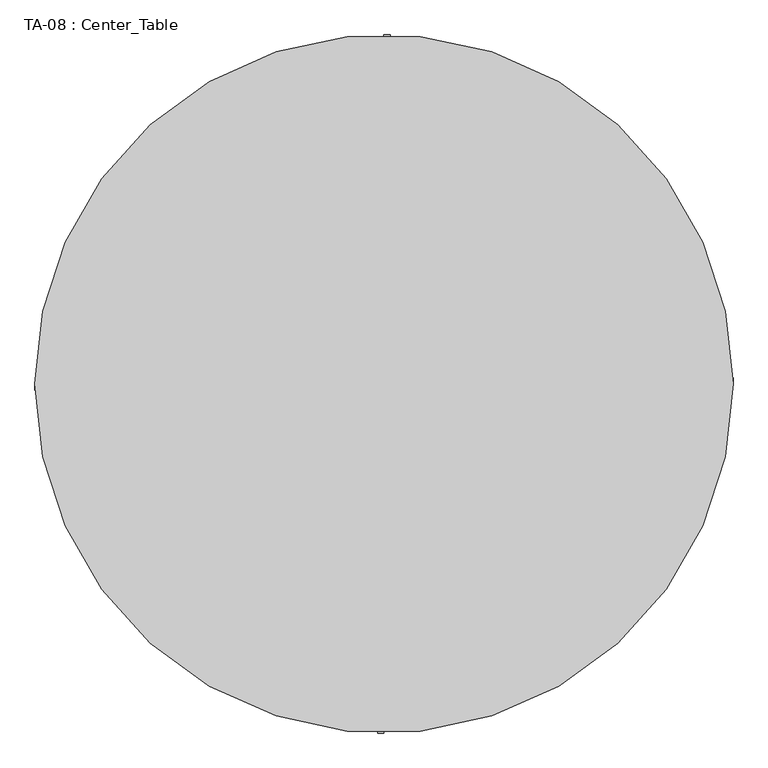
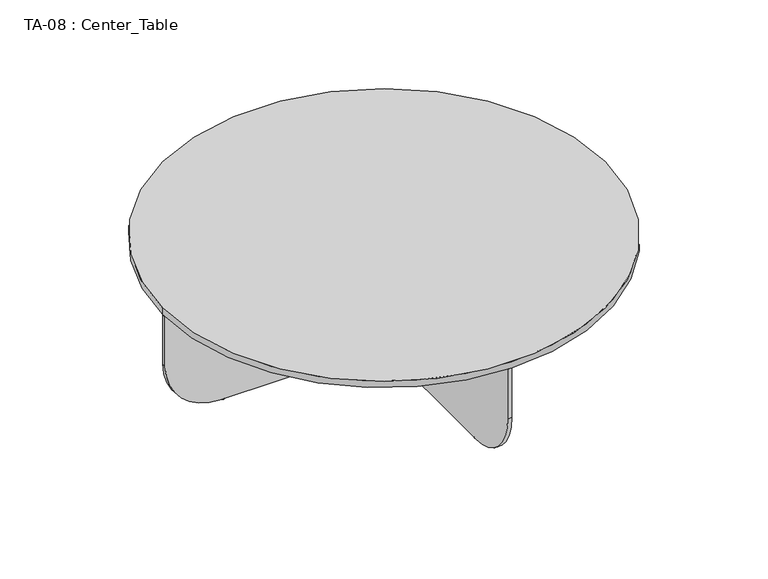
"""IFC4 building model written with IfcOpenShell, lengths in millimetres: furniture geometry, TA-08 : Center_Table."""

from ifc_helpers import new_model, si_unit, point, frame, frame_2d, origin, origin_2d, place, context, project, spatial, polyline, circle_curve, trimmed, segment, composite_curve, outline, extrude, source, transform, mapped, element, save
from ifc_brep_helpers import plane_surface, spline_surface, advanced_brep


def ta_08_center_table_7fddebb3(model_context):
    return source(origin(), model_context, "Body", "SolidModel", [
        extrude(outline(composite_curve([segment(trimmed(circle_curve(origin_2d(), 500.0), [point((-500.0, 0.0))], [point((500.0, 0.0))], False, "CARTESIAN"), True, "CONTINUOUS"), segment(trimmed(circle_curve(origin_2d(), 500.0), [point((500.0, 0.0))], [point((-500.0, 0.0))], False, "CARTESIAN"), True, "CONTINUOUS")], self_intersect=False)), frame((0.0, 0.0, 245.0), z_axis=(0.0, 0.0, 1.0), x_axis=(1.0, 0.0, 0.0)), (0.0, 0.0, 1.0), 15.0),
        advanced_brep(
        [(-1.3330078, -368.3337402, 2.4487968), (-0.8428955, -366.5057373, 2.4487968), (-1.3330078, -364.677124, 2.4487968), (-2.6708984, -363.338623, 2.4487968), (-4.4995117, -362.8491211, 2.4487968), (-6.328125, -363.338623, 2.4487968), (-7.6660156, -364.677124, 2.4487968), (-8.1561279, -366.5057373, 2.4487968), (-7.6660156, -368.3337402, 2.4487968), (-6.328125, -369.6722412, 2.4487968), (-4.4995117, -370.1623535, 2.4487968), (-2.6708984, -369.6722412, 2.4487968), (-1.7712402, -368.0804443, 0.0), (-2.9248047, -369.2333984, 0.0), (-4.4995117, -369.6557617, 0.0), (-6.0742188, -369.2333984, 0.0), (-7.2277832, -368.0804443, 0.0), (-7.6495361, -366.5057373, 0.0), (-7.2277832, -364.9304199, 0.0), (-6.0742188, -363.7774658, 0.0), (-4.4995117, -363.3557129, 0.0), (-2.9248047, -363.7774658, 0.0), (-1.7712402, -364.9304199, 0.0), (-1.3494873, -366.5057373, 0.0)],
        [
            (0, 1),
            (1, 2),
            (2, 3),
            (3, 4),
            (4, 5),
            (5, 6),
            (6, 7),
            (7, 8),
            (8, 9),
            (9, 10),
            (10, 11),
            (11, 0),
            (12, 13),
            (13, 14),
            (14, 15),
            (15, 16),
            (16, 17),
            (17, 18),
            (18, 19),
            (19, 20),
            (20, 21),
            (21, 22),
            (22, 23),
            (23, 12),
            (12, 0),
            (11, 13),
            (10, 14),
            (9, 15),
            (8, 16),
            (7, 17),
            (6, 18),
            (5, 19),
            (4, 20),
            (3, 21),
            (2, 22),
            (1, 23),
        ],
        [
            plane_surface(frame((-4.4995117, -366.5055339, 2.4487968), z_axis=(0.0, 0.0, 1.0000000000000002), x_axis=(-0.9659883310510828, 0.25858566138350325, 0.0))),
            plane_surface(frame((-4.4995117, -366.5055339, 0.0), z_axis=(0.0, 0.0, -1.0000000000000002), x_axis=(-0.9659883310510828, 0.25858566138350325, 0.0))),
            spline_surface(1, 1, [[(-2.9248047, -369.2333984, 0.0), (-2.6708984, -369.6722412, 2.4487968)], [(-1.7712402, -368.0804443, 0.0), (-1.3330078, -368.3337402, 2.4487968)]], [2, 2], [2, 2], [0.0, 1.0], [0.0, 1.0]),
            spline_surface(1, 1, [[(-4.4995117, -369.6557617, 0.0), (-4.4995117, -370.1623535, 2.4487968)], [(-2.9248047, -369.2333984, 0.0), (-2.6708984, -369.6722412, 2.4487968)]], [2, 2], [2, 2], [0.0, 1.0], [0.0, 1.0]),
            spline_surface(1, 1, [[(-6.0742188, -369.2333984, 0.0), (-6.328125, -369.6722412, 2.4487968)], [(-4.4995117, -369.6557617, 0.0), (-4.4995117, -370.1623535, 2.4487968)]], [2, 2], [2, 2], [0.0, 1.0], [0.0, 1.0]),
            spline_surface(1, 1, [[(-7.2277832, -368.0804443, 0.0), (-7.6660156, -368.3337402, 2.4487968)], [(-6.0742188, -369.2333984, 0.0), (-6.328125, -369.6722412, 2.4487968)]], [2, 2], [2, 2], [0.0, 1.0], [0.0, 1.0]),
            spline_surface(1, 1, [[(-7.6495361, -366.5057373, 0.0), (-8.1561279, -366.5057373, 2.4487968)], [(-7.2277832, -368.0804443, 0.0), (-7.6660156, -368.3337402, 2.4487968)]], [2, 2], [2, 2], [0.0, 1.0], [0.0, 1.0]),
            spline_surface(1, 1, [[(-7.2277832, -364.9304199, 0.0), (-7.6660156, -364.677124, 2.4487968)], [(-7.6495361, -366.5057373, 0.0), (-8.1561279, -366.5057373, 2.4487968)]], [2, 2], [2, 2], [0.0, 1.0], [0.0, 1.0]),
            spline_surface(1, 1, [[(-6.0742188, -363.7774658, 0.0), (-6.328125, -363.338623, 2.4487968)], [(-7.2277832, -364.9304199, 0.0), (-7.6660156, -364.677124, 2.4487968)]], [2, 2], [2, 2], [0.0, 1.0], [0.0, 1.0]),
            spline_surface(1, 1, [[(-4.4995117, -363.3557129, 0.0), (-4.4995117, -362.8491211, 2.4487968)], [(-6.0742188, -363.7774658, 0.0), (-6.328125, -363.338623, 2.4487968)]], [2, 2], [2, 2], [0.0, 1.0], [0.0, 1.0]),
            spline_surface(1, 1, [[(-2.9248047, -363.7774658, 0.0), (-2.6708984, -363.338623, 2.4487968)], [(-4.4995117, -363.3557129, 0.0), (-4.4995117, -362.8491211, 2.4487968)]], [2, 2], [2, 2], [0.0, 1.0], [0.0, 1.0]),
            spline_surface(1, 1, [[(-1.7712402, -364.9304199, 0.0), (-1.3330078, -364.677124, 2.4487968)], [(-2.9248047, -363.7774658, 0.0), (-2.6708984, -363.338623, 2.4487968)]], [2, 2], [2, 2], [0.0, 1.0], [0.0, 1.0]),
            spline_surface(1, 1, [[(-1.3494873, -366.5057373, 0.0), (-0.8428955, -366.5057373, 2.4487968)], [(-1.7712402, -364.9304199, 0.0), (-1.3330078, -364.677124, 2.4487968)]], [2, 2], [2, 2], [0.0, 1.0], [0.0, 1.0]),
            spline_surface(1, 1, [[(-1.7712402, -368.0804443, 0.0), (-1.3330078, -368.3337402, 2.4487968)], [(-1.3494873, -366.5057373, 0.0), (-0.8428955, -366.5057373, 2.4487968)]], [2, 2], [2, 2], [0.0, 1.0], [0.0, 1.0]),
        ],
        [
            (0, [[1, 2, 3, 4, 5, 6, 7, 8, 9, 10, 11, 12]]),
            (1, [[13, 14, 15, 16, 17, 18, 19, 20, 21, 22, 23, 24]]),
            (2, [[-13, 25, -12, 26]]),
            (3, [[-14, -26, -11, 27]]),
            (4, [[-15, -27, -10, 28]]),
            (5, [[-16, -28, -9, 29]]),
            (6, [[-17, -29, -8, 30]]),
            (7, [[-18, -30, -7, 31]]),
            (8, [[-19, -31, -6, 32]]),
            (9, [[-20, -32, -5, 33]]),
            (10, [[-21, -33, -4, 34]]),
            (11, [[-22, -34, -3, 35]]),
            (12, [[-23, -35, -2, 36]]),
            (13, [[-24, -36, -1, -25]]),
        ],
    ),
        advanced_brep(
        [(-1.3330078, -91.4007568, 2.4487968), (-0.8428955, -89.5727539, 2.4487968), (-1.3330078, -87.7441406, 2.4487968), (-2.6708984, -86.4056396, 2.4487968), (-4.4995117, -85.9161377, 2.4487968), (-6.328125, -86.4056396, 2.4487968), (-7.6660156, -87.7441406, 2.4487968), (-8.1561279, -89.5727539, 2.4487968), (-7.6660156, -91.4007568, 2.4487968), (-6.328125, -92.7392578, 2.4487968), (-4.4995117, -93.2293701, 2.4487968), (-2.6708984, -92.7392578, 2.4487968), (-1.7712402, -91.1474609, 0.0), (-2.9248047, -92.300415, 0.0), (-4.4995117, -92.7227783, 0.0), (-6.0742188, -92.300415, 0.0), (-7.2277832, -91.1474609, 0.0), (-7.6495361, -89.5727539, 0.0), (-7.2277832, -87.9974365, 0.0), (-6.0742187, -86.8444824, 0.0), (-4.4995117, -86.4227295, 0.0), (-2.9248047, -86.8444824, 0.0), (-1.7712402, -87.9974365, 0.0), (-1.3494873, -89.5727539, 0.0)],
        [
            (0, 1),
            (1, 2),
            (2, 3),
            (3, 4),
            (4, 5),
            (5, 6),
            (6, 7),
            (7, 8),
            (8, 9),
            (9, 10),
            (10, 11),
            (11, 0),
            (12, 13),
            (13, 14),
            (14, 15),
            (15, 16),
            (16, 17),
            (17, 18),
            (18, 19),
            (19, 20),
            (20, 21),
            (21, 22),
            (22, 23),
            (23, 12),
            (12, 0),
            (11, 13),
            (10, 14),
            (9, 15),
            (8, 16),
            (7, 17),
            (6, 18),
            (5, 19),
            (4, 20),
            (3, 21),
            (2, 22),
            (1, 23),
        ],
        [
            plane_surface(frame((-4.4995117, -89.5725505, 2.4487968), z_axis=(0.0, 0.0, 1.0000000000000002), x_axis=(-0.9659883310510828, 0.25858566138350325, 0.0))),
            plane_surface(frame((-4.4995117, -89.5725505, 0.0), z_axis=(0.0, 0.0, -1.0000000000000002), x_axis=(-0.9659883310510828, 0.25858566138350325, 0.0))),
            spline_surface(1, 1, [[(-2.9248047, -92.300415, 0.0), (-2.6708984, -92.7392578, 2.4487968)], [(-1.7712402, -91.1474609, 0.0), (-1.3330078, -91.4007568, 2.4487968)]], [2, 2], [2, 2], [0.0, 1.0], [0.0, 1.0]),
            spline_surface(1, 1, [[(-4.4995117, -92.7227783, 0.0), (-4.4995117, -93.2293701, 2.4487968)], [(-2.9248047, -92.300415, 0.0), (-2.6708984, -92.7392578, 2.4487968)]], [2, 2], [2, 2], [0.0, 1.0], [0.0, 1.0]),
            spline_surface(1, 1, [[(-6.0742188, -92.300415, 0.0), (-6.328125, -92.7392578, 2.4487968)], [(-4.4995117, -92.7227783, 0.0), (-4.4995117, -93.2293701, 2.4487968)]], [2, 2], [2, 2], [0.0, 1.0], [0.0, 1.0]),
            spline_surface(1, 1, [[(-7.2277832, -91.1474609, 0.0), (-7.6660156, -91.4007568, 2.4487968)], [(-6.0742188, -92.300415, 0.0), (-6.328125, -92.7392578, 2.4487968)]], [2, 2], [2, 2], [0.0, 1.0], [0.0, 1.0]),
            spline_surface(1, 1, [[(-7.6495361, -89.5727539, 0.0), (-8.1561279, -89.5727539, 2.4487968)], [(-7.2277832, -91.1474609, 0.0), (-7.6660156, -91.4007568, 2.4487968)]], [2, 2], [2, 2], [0.0, 1.0], [0.0, 1.0]),
            spline_surface(1, 1, [[(-7.2277832, -87.9974365, 0.0), (-7.6660156, -87.7441406, 2.4487968)], [(-7.6495361, -89.5727539, 0.0), (-8.1561279, -89.5727539, 2.4487968)]], [2, 2], [2, 2], [0.0, 1.0], [0.0, 1.0]),
            spline_surface(1, 1, [[(-6.0742187, -86.8444824, 0.0), (-6.328125, -86.4056396, 2.4487968)], [(-7.2277832, -87.9974365, 0.0), (-7.6660156, -87.7441406, 2.4487968)]], [2, 2], [2, 2], [0.0, 1.0], [0.0, 1.0]),
            spline_surface(1, 1, [[(-4.4995117, -86.4227295, 0.0), (-4.4995117, -85.9161377, 2.4487968)], [(-6.0742187, -86.8444824, 0.0), (-6.328125, -86.4056396, 2.4487968)]], [2, 2], [2, 2], [0.0, 1.0], [0.0, 1.0]),
            spline_surface(1, 1, [[(-2.9248047, -86.8444824, 0.0), (-2.6708984, -86.4056396, 2.4487968)], [(-4.4995117, -86.4227295, 0.0), (-4.4995117, -85.9161377, 2.4487968)]], [2, 2], [2, 2], [0.0, 1.0], [0.0, 1.0]),
            spline_surface(1, 1, [[(-1.7712402, -87.9974365, 0.0), (-1.3330078, -87.7441406, 2.4487968)], [(-2.9248047, -86.8444824, 0.0), (-2.6708984, -86.4056396, 2.4487968)]], [2, 2], [2, 2], [0.0, 1.0], [0.0, 1.0]),
            spline_surface(1, 1, [[(-1.3494873, -89.5727539, 0.0), (-0.8428955, -89.5727539, 2.4487968)], [(-1.7712402, -87.9974365, 0.0), (-1.3330078, -87.7441406, 2.4487968)]], [2, 2], [2, 2], [0.0, 1.0], [0.0, 1.0]),
            spline_surface(1, 1, [[(-1.7712402, -91.1474609, 0.0), (-1.3330078, -91.4007568, 2.4487968)], [(-1.3494873, -89.5727539, 0.0), (-0.8428955, -89.5727539, 2.4487968)]], [2, 2], [2, 2], [0.0, 1.0], [0.0, 1.0]),
        ],
        [
            (0, [[1, 2, 3, 4, 5, 6, 7, 8, 9, 10, 11, 12]]),
            (1, [[13, 14, 15, 16, 17, 18, 19, 20, 21, 22, 23, 24]]),
            (2, [[-13, 25, -12, 26]]),
            (3, [[-14, -26, -11, 27]]),
            (4, [[-15, -27, -10, 28]]),
            (5, [[-16, -28, -9, 29]]),
            (6, [[-17, -29, -8, 30]]),
            (7, [[-18, -30, -7, 31]]),
            (8, [[-19, -31, -6, 32]]),
            (9, [[-20, -32, -5, 33]]),
            (10, [[-21, -33, -4, 34]]),
            (11, [[-22, -34, -3, 35]]),
            (12, [[-23, -35, -2, 36]]),
            (13, [[-24, -36, -1, -25]]),
        ],
    ),
        advanced_brep(
        [(1.333061, 368.33374, 2.4487968), (0.8429484, 366.5057372, 2.4487968), (1.3330604, 364.6771238, 2.4487968), (2.6709509, 363.3386227, 2.4487968), (4.4995641, 362.8491204, 2.4487968), (6.3281774, 363.3386221, 2.4487968), (7.6660682, 364.6771229, 2.4487968), (8.1561808, 366.5057361, 2.4487968), (7.6660688, 368.3337391, 2.4487968), (6.3281783, 369.6722403, 2.4487968), (4.4995651, 370.1623529, 2.4487968), (2.6709518, 369.6722408, 2.4487968), (1.7712933, 368.0804441, 0.0), (2.924858, 369.233398, 0.0), (4.4995651, 369.6557611, 0.0), (6.074272, 369.2333976, 0.0), (7.2278363, 368.0804433, 0.0), (7.649589, 366.5057362, 0.0), (7.2278359, 364.9304189, 0.0), (6.0742712, 363.7774649, 0.0), (4.4995641, 363.3557122, 0.0), (2.9248572, 363.7774654, 0.0), (1.7712929, 364.9304197, 0.0), (1.3495402, 366.5057371, 0.0)],
        [
            (0, 1),
            (1, 2),
            (2, 3),
            (3, 4),
            (4, 5),
            (5, 6),
            (6, 7),
            (7, 8),
            (8, 9),
            (9, 10),
            (10, 11),
            (11, 0),
            (12, 13),
            (13, 14),
            (14, 15),
            (15, 16),
            (16, 17),
            (17, 18),
            (18, 19),
            (19, 20),
            (20, 21),
            (21, 22),
            (22, 23),
            (23, 12),
            (12, 0),
            (11, 13),
            (10, 14),
            (9, 15),
            (8, 16),
            (7, 17),
            (6, 18),
            (5, 19),
            (4, 20),
            (3, 21),
            (2, 22),
            (1, 23),
        ],
        [
            plane_surface(frame((4.4995646, 366.5055332, 2.4487968), z_axis=(0.0, 0.0, 1.0000000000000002), x_axis=(0.9659882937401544, -0.25858580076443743, 0.0))),
            plane_surface(frame((4.4995646, 366.5055332, 0.0), z_axis=(0.0, 0.0, -1.0000000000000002), x_axis=(0.9659882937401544, -0.25858580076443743, 0.0))),
            spline_surface(1, 1, [[(2.924858, 369.233398, 0.0), (2.6709518, 369.6722408, 2.4487968)], [(1.7712933, 368.0804441, 0.0), (1.333061, 368.33374, 2.4487968)]], [2, 2], [2, 2], [0.0, 1.0], [0.0, 1.0]),
            spline_surface(1, 1, [[(4.4995651, 369.6557611, 0.0), (4.4995651, 370.1623529, 2.4487968)], [(2.924858, 369.233398, 0.0), (2.6709518, 369.6722408, 2.4487968)]], [2, 2], [2, 2], [0.0, 1.0], [0.0, 1.0]),
            spline_surface(1, 1, [[(6.074272, 369.2333976, 0.0), (6.3281783, 369.6722403, 2.4487968)], [(4.4995651, 369.6557611, 0.0), (4.4995651, 370.1623529, 2.4487968)]], [2, 2], [2, 2], [0.0, 1.0], [0.0, 1.0]),
            spline_surface(1, 1, [[(7.2278363, 368.0804433, 0.0), (7.6660688, 368.3337391, 2.4487968)], [(6.074272, 369.2333976, 0.0), (6.3281783, 369.6722403, 2.4487968)]], [2, 2], [2, 2], [0.0, 1.0], [0.0, 1.0]),
            spline_surface(1, 1, [[(7.649589, 366.5057362, 0.0), (8.1561808, 366.5057361, 2.4487968)], [(7.2278363, 368.0804433, 0.0), (7.6660688, 368.3337391, 2.4487968)]], [2, 2], [2, 2], [0.0, 1.0], [0.0, 1.0]),
            spline_surface(1, 1, [[(7.2278359, 364.9304189, 0.0), (7.6660682, 364.6771229, 2.4487968)], [(7.649589, 366.5057362, 0.0), (8.1561808, 366.5057361, 2.4487968)]], [2, 2], [2, 2], [0.0, 1.0], [0.0, 1.0]),
            spline_surface(1, 1, [[(6.0742712, 363.7774649, 0.0), (6.3281774, 363.3386221, 2.4487968)], [(7.2278359, 364.9304189, 0.0), (7.6660682, 364.6771229, 2.4487968)]], [2, 2], [2, 2], [0.0, 1.0], [0.0, 1.0]),
            spline_surface(1, 1, [[(4.4995641, 363.3557122, 0.0), (4.4995641, 362.8491204, 2.4487968)], [(6.0742712, 363.7774649, 0.0), (6.3281774, 363.3386221, 2.4487968)]], [2, 2], [2, 2], [0.0, 1.0], [0.0, 1.0]),
            spline_surface(1, 1, [[(2.9248572, 363.7774654, 0.0), (2.6709509, 363.3386227, 2.4487968)], [(4.4995641, 363.3557122, 0.0), (4.4995641, 362.8491204, 2.4487968)]], [2, 2], [2, 2], [0.0, 1.0], [0.0, 1.0]),
            spline_surface(1, 1, [[(1.7712929, 364.9304197, 0.0), (1.3330604, 364.6771238, 2.4487968)], [(2.9248572, 363.7774654, 0.0), (2.6709509, 363.3386227, 2.4487968)]], [2, 2], [2, 2], [0.0, 1.0], [0.0, 1.0]),
            spline_surface(1, 1, [[(1.3495402, 366.5057371, 0.0), (0.8429484, 366.5057372, 2.4487968)], [(1.7712929, 364.9304197, 0.0), (1.3330604, 364.6771238, 2.4487968)]], [2, 2], [2, 2], [0.0, 1.0], [0.0, 1.0]),
            spline_surface(1, 1, [[(1.7712933, 368.0804441, 0.0), (1.333061, 368.33374, 2.4487968)], [(1.3495402, 366.5057371, 0.0), (0.8429484, 366.5057372, 2.4487968)]], [2, 2], [2, 2], [0.0, 1.0], [0.0, 1.0]),
        ],
        [
            (0, [[1, 2, 3, 4, 5, 6, 7, 8, 9, 10, 11, 12]]),
            (1, [[13, 14, 15, 16, 17, 18, 19, 20, 21, 22, 23, 24]]),
            (2, [[-13, 25, -12, 26]]),
            (3, [[-14, -26, -11, 27]]),
            (4, [[-15, -27, -10, 28]]),
            (5, [[-16, -28, -9, 29]]),
            (6, [[-17, -29, -8, 30]]),
            (7, [[-18, -30, -7, 31]]),
            (8, [[-19, -31, -6, 32]]),
            (9, [[-20, -32, -5, 33]]),
            (10, [[-21, -33, -4, 34]]),
            (11, [[-22, -34, -3, 35]]),
            (12, [[-23, -35, -2, 36]]),
            (13, [[-24, -36, -1, -25]]),
        ],
    ),
        advanced_brep(
        [(1.333021, 91.4007566, 2.4487968), (0.8429084, 89.5727538, 2.4487968), (1.3330205, 87.7441404, 2.4487968), (2.6709109, 86.4056393, 2.4487968), (4.4995241, 85.916137, 2.4487968), (6.3281375, 86.4056387, 2.4487968), (7.6660283, 87.7441395, 2.4487968), (8.1561409, 89.5727527, 2.4487968), (7.6660288, 91.4007557, 2.4487968), (6.3281384, 92.7392569, 2.4487968), (4.4995252, 93.2293695, 2.4487968), (2.6709118, 92.7392574, 2.4487968), (1.7712534, 91.1474607, 0.0), (2.924818, 92.3004146, 0.0), (4.4995251, 92.7227777, 0.0), (6.0742321, 92.3004142, 0.0), (7.2277964, 91.1474599, 0.0), (7.6495491, 89.5727528, 0.0), (7.2277959, 87.9974355, 0.0), (6.0742313, 86.8444815, 0.0), (4.4995242, 86.4227288, 0.0), (2.9248172, 86.844482, 0.0), (1.7712529, 87.9974363, 0.0), (1.3495002, 89.5727537, 0.0)],
        [
            (0, 1),
            (1, 2),
            (2, 3),
            (3, 4),
            (4, 5),
            (5, 6),
            (6, 7),
            (7, 8),
            (8, 9),
            (9, 10),
            (10, 11),
            (11, 0),
            (12, 13),
            (13, 14),
            (14, 15),
            (15, 16),
            (16, 17),
            (17, 18),
            (18, 19),
            (19, 20),
            (20, 21),
            (21, 22),
            (22, 23),
            (23, 12),
            (12, 0),
            (11, 13),
            (10, 14),
            (9, 15),
            (8, 16),
            (7, 17),
            (6, 18),
            (5, 19),
            (4, 20),
            (3, 21),
            (2, 22),
            (1, 23),
        ],
        [
            plane_surface(frame((4.4995246, 89.5725498, 2.4487968), z_axis=(0.0, 0.0, 1.0000000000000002), x_axis=(0.9659882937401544, -0.25858580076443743, 0.0))),
            plane_surface(frame((4.4995246, 89.5725498, 0.0), z_axis=(0.0, 0.0, -1.0000000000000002), x_axis=(0.9659882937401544, -0.25858580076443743, 0.0))),
            spline_surface(1, 1, [[(2.924818, 92.3004146, 0.0), (2.6709118, 92.7392574, 2.4487968)], [(1.7712534, 91.1474607, 0.0), (1.333021, 91.4007566, 2.4487968)]], [2, 2], [2, 2], [0.0, 1.0], [0.0, 1.0]),
            spline_surface(1, 1, [[(4.4995251, 92.7227777, 0.0), (4.4995252, 93.2293695, 2.4487968)], [(2.924818, 92.3004146, 0.0), (2.6709118, 92.7392574, 2.4487968)]], [2, 2], [2, 2], [0.0, 1.0], [0.0, 1.0]),
            spline_surface(1, 1, [[(6.0742321, 92.3004142, 0.0), (6.3281384, 92.7392569, 2.4487968)], [(4.4995251, 92.7227777, 0.0), (4.4995252, 93.2293695, 2.4487968)]], [2, 2], [2, 2], [0.0, 1.0], [0.0, 1.0]),
            spline_surface(1, 1, [[(7.2277964, 91.1474599, 0.0), (7.6660288, 91.4007557, 2.4487968)], [(6.0742321, 92.3004142, 0.0), (6.3281384, 92.7392569, 2.4487968)]], [2, 2], [2, 2], [0.0, 1.0], [0.0, 1.0]),
            spline_surface(1, 1, [[(7.6495491, 89.5727528, 0.0), (8.1561409, 89.5727527, 2.4487968)], [(7.2277964, 91.1474599, 0.0), (7.6660288, 91.4007557, 2.4487968)]], [2, 2], [2, 2], [0.0, 1.0], [0.0, 1.0]),
            spline_surface(1, 1, [[(7.2277959, 87.9974355, 0.0), (7.6660283, 87.7441395, 2.4487968)], [(7.6495491, 89.5727528, 0.0), (8.1561409, 89.5727527, 2.4487968)]], [2, 2], [2, 2], [0.0, 1.0], [0.0, 1.0]),
            spline_surface(1, 1, [[(6.0742313, 86.8444815, 0.0), (6.3281375, 86.4056387, 2.4487968)], [(7.2277959, 87.9974355, 0.0), (7.6660283, 87.7441395, 2.4487968)]], [2, 2], [2, 2], [0.0, 1.0], [0.0, 1.0]),
            spline_surface(1, 1, [[(4.4995242, 86.4227288, 0.0), (4.4995241, 85.916137, 2.4487968)], [(6.0742313, 86.8444815, 0.0), (6.3281375, 86.4056387, 2.4487968)]], [2, 2], [2, 2], [0.0, 1.0], [0.0, 1.0]),
            spline_surface(1, 1, [[(2.9248172, 86.844482, 0.0), (2.6709109, 86.4056393, 2.4487968)], [(4.4995242, 86.4227288, 0.0), (4.4995241, 85.916137, 2.4487968)]], [2, 2], [2, 2], [0.0, 1.0], [0.0, 1.0]),
            spline_surface(1, 1, [[(1.7712529, 87.9974363, 0.0), (1.3330205, 87.7441404, 2.4487968)], [(2.9248172, 86.844482, 0.0), (2.6709109, 86.4056393, 2.4487968)]], [2, 2], [2, 2], [0.0, 1.0], [0.0, 1.0]),
            spline_surface(1, 1, [[(1.3495002, 89.5727537, 0.0), (0.8429084, 89.5727538, 2.4487968)], [(1.7712529, 87.9974363, 0.0), (1.3330205, 87.7441404, 2.4487968)]], [2, 2], [2, 2], [0.0, 1.0], [0.0, 1.0]),
            spline_surface(1, 1, [[(1.7712534, 91.1474607, 0.0), (1.333021, 91.4007566, 2.4487968)], [(1.3495002, 89.5727537, 0.0), (0.8429084, 89.5727538, 2.4487968)]], [2, 2], [2, 2], [0.0, 1.0], [0.0, 1.0]),
        ],
        [
            (0, [[1, 2, 3, 4, 5, 6, 7, 8, 9, 10, 11, 12]]),
            (1, [[13, 14, 15, 16, 17, 18, 19, 20, 21, 22, 23, 24]]),
            (2, [[-13, 25, -12, 26]]),
            (3, [[-14, -26, -11, 27]]),
            (4, [[-15, -27, -10, 28]]),
            (5, [[-16, -28, -9, 29]]),
            (6, [[-17, -29, -8, 30]]),
            (7, [[-18, -30, -7, 31]]),
            (8, [[-19, -31, -6, 32]]),
            (9, [[-20, -32, -5, 33]]),
            (10, [[-21, -33, -4, 34]]),
            (11, [[-22, -34, -3, 35]]),
            (12, [[-23, -35, -2, 36]]),
            (13, [[-24, -36, -1, -25]]),
        ],
    ),
        advanced_brep(
        [(368.3337402, 1.3330078, 2.4487968), (369.6722412, 2.6708984, 2.4487968), (370.1623535, 4.4995117, 2.4487968), (369.6722412, 6.328125, 2.4487968), (368.3337402, 7.6660156, 2.4487968), (366.5057373, 8.1561279, 2.4487968), (364.677124, 7.6660156, 2.4487968), (363.338623, 6.328125, 2.4487968), (362.8491211, 4.4995117, 2.4487968), (363.338623, 2.6708984, 2.4487968), (364.677124, 1.3330078, 2.4487968), (366.5057373, 0.8428955, 2.4487968), (368.0804443, 1.7712402, 0.0), (366.5057373, 1.3494873, 0.0), (364.9304199, 1.7712402, 0.0), (363.7774658, 2.9248047, 0.0), (363.3557129, 4.4995117, 0.0), (363.7774658, 6.0742188, 0.0), (364.9304199, 7.2277832, 0.0), (366.5057373, 7.6495361, 0.0), (368.0804443, 7.2277832, 0.0), (369.2333984, 6.0742188, 0.0), (369.6557617, 4.4995117, 0.0), (369.2333984, 2.9248047, 0.0)],
        [
            (0, 1),
            (1, 2),
            (2, 3),
            (3, 4),
            (4, 5),
            (5, 6),
            (6, 7),
            (7, 8),
            (8, 9),
            (9, 10),
            (10, 11),
            (11, 0),
            (12, 13),
            (13, 14),
            (14, 15),
            (15, 16),
            (16, 17),
            (17, 18),
            (18, 19),
            (19, 20),
            (20, 21),
            (21, 22),
            (22, 23),
            (23, 12),
            (23, 1),
            (0, 12),
            (22, 2),
            (21, 3),
            (20, 4),
            (19, 5),
            (18, 6),
            (17, 7),
            (16, 8),
            (15, 9),
            (14, 10),
            (13, 11),
        ],
        [
            plane_surface(frame((366.5055339, 4.4995117, 2.4487968), z_axis=(0.0, 0.0, 1.0), x_axis=(0.707268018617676, -0.7069455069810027, 0.0))),
            plane_surface(frame((366.5055339, 4.4995117, 0.0), z_axis=(0.0, 0.0, -1.0), x_axis=(0.707268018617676, -0.7069455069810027, 0.0))),
            spline_surface(1, 1, [[(368.0804443, 1.7712402, 0.0), (368.3337402, 1.3330078, 2.4487968)], [(369.2333984, 2.9248047, 0.0), (369.6722412, 2.6708984, 2.4487968)]], [2, 2], [2, 2], [0.0, 1.0], [0.0, 1.0]),
            spline_surface(1, 1, [[(369.2333984, 2.9248047, 0.0), (369.6722412, 2.6708984, 2.4487968)], [(369.6557617, 4.4995117, 0.0), (370.1623535, 4.4995117, 2.4487968)]], [2, 2], [2, 2], [0.0, 1.0], [0.0, 1.0]),
            spline_surface(1, 1, [[(369.6557617, 4.4995117, 0.0), (370.1623535, 4.4995117, 2.4487968)], [(369.2333984, 6.0742188, 0.0), (369.6722412, 6.328125, 2.4487968)]], [2, 2], [2, 2], [0.0, 1.0], [0.0, 1.0]),
            spline_surface(1, 1, [[(369.2333984, 6.0742188, 0.0), (369.6722412, 6.328125, 2.4487968)], [(368.0804443, 7.2277832, 0.0), (368.3337402, 7.6660156, 2.4487968)]], [2, 2], [2, 2], [0.0, 1.0], [0.0, 1.0]),
            spline_surface(1, 1, [[(368.0804443, 7.2277832, 0.0), (368.3337402, 7.6660156, 2.4487968)], [(366.5057373, 7.6495361, 0.0), (366.5057373, 8.1561279, 2.4487968)]], [2, 2], [2, 2], [0.0, 1.0], [0.0, 1.0]),
            spline_surface(1, 1, [[(366.5057373, 7.6495361, 0.0), (366.5057373, 8.1561279, 2.4487968)], [(364.9304199, 7.2277832, 0.0), (364.677124, 7.6660156, 2.4487968)]], [2, 2], [2, 2], [0.0, 1.0], [0.0, 1.0]),
            spline_surface(1, 1, [[(364.9304199, 7.2277832, 0.0), (364.677124, 7.6660156, 2.4487968)], [(363.7774658, 6.0742188, 0.0), (363.338623, 6.328125, 2.4487968)]], [2, 2], [2, 2], [0.0, 1.0], [0.0, 1.0]),
            spline_surface(1, 1, [[(363.7774658, 6.0742188, 0.0), (363.338623, 6.328125, 2.4487968)], [(363.3557129, 4.4995117, 0.0), (362.8491211, 4.4995117, 2.4487968)]], [2, 2], [2, 2], [0.0, 1.0], [0.0, 1.0]),
            spline_surface(1, 1, [[(363.3557129, 4.4995117, 0.0), (362.8491211, 4.4995117, 2.4487968)], [(363.7774658, 2.9248047, 0.0), (363.338623, 2.6708984, 2.4487968)]], [2, 2], [2, 2], [0.0, 1.0], [0.0, 1.0]),
            spline_surface(1, 1, [[(363.7774658, 2.9248047, 0.0), (363.338623, 2.6708984, 2.4487968)], [(364.9304199, 1.7712402, 0.0), (364.677124, 1.3330078, 2.4487968)]], [2, 2], [2, 2], [0.0, 1.0], [0.0, 1.0]),
            spline_surface(1, 1, [[(364.9304199, 1.7712402, 0.0), (364.677124, 1.3330078, 2.4487968)], [(366.5057373, 1.3494873, 0.0), (366.5057373, 0.8428955, 2.4487968)]], [2, 2], [2, 2], [0.0, 1.0], [0.0, 1.0]),
            spline_surface(1, 1, [[(366.5057373, 1.3494873, 0.0), (366.5057373, 0.8428955, 2.4487968)], [(368.0804443, 1.7712402, 0.0), (368.3337402, 1.3330078, 2.4487968)]], [2, 2], [2, 2], [0.0, 1.0], [0.0, 1.0]),
        ],
        [
            (0, [[1, 2, 3, 4, 5, 6, 7, 8, 9, 10, 11, 12]]),
            (1, [[13, 14, 15, 16, 17, 18, 19, 20, 21, 22, 23, 24]]),
            (2, [[-24, 25, -1, 26]]),
            (3, [[-23, 27, -2, -25]]),
            (4, [[-22, 28, -3, -27]]),
            (5, [[-21, 29, -4, -28]]),
            (6, [[-20, 30, -5, -29]]),
            (7, [[-19, 31, -6, -30]]),
            (8, [[-18, 32, -7, -31]]),
            (9, [[-17, 33, -8, -32]]),
            (10, [[-16, 34, -9, -33]]),
            (11, [[-15, 35, -10, -34]]),
            (12, [[-14, 36, -11, -35]]),
            (13, [[-13, -26, -12, -36]]),
        ],
    ),
        advanced_brep(
        [(91.4007568, 1.3330078, 2.4487968), (92.7392578, 2.6708984, 2.4487968), (93.2293701, 4.4995117, 2.4487968), (92.7392578, 6.328125, 2.4487968), (91.4007568, 7.6660156, 2.4487968), (89.5727539, 8.1561279, 2.4487968), (87.7441406, 7.6660156, 2.4487968), (86.4056396, 6.328125, 2.4487968), (85.9161377, 4.4995117, 2.4487968), (86.4056396, 2.6708984, 2.4487968), (87.7441406, 1.3330078, 2.4487968), (89.5727539, 0.8428955, 2.4487968), (91.1474609, 1.7712402, 0.0), (89.5727539, 1.3494873, 0.0), (87.9974365, 1.7712402, 0.0), (86.8444824, 2.9248047, 0.0), (86.4227295, 4.4995117, 0.0), (86.8444824, 6.0742188, 0.0), (87.9974365, 7.2277832, 0.0), (89.5727539, 7.6495361, 0.0), (91.1474609, 7.2277832, 0.0), (92.300415, 6.0742188, 0.0), (92.7227783, 4.4995117, 0.0), (92.300415, 2.9248047, 0.0)],
        [
            (0, 1),
            (1, 2),
            (2, 3),
            (3, 4),
            (4, 5),
            (5, 6),
            (6, 7),
            (7, 8),
            (8, 9),
            (9, 10),
            (10, 11),
            (11, 0),
            (12, 13),
            (13, 14),
            (14, 15),
            (15, 16),
            (16, 17),
            (17, 18),
            (18, 19),
            (19, 20),
            (20, 21),
            (21, 22),
            (22, 23),
            (23, 12),
            (23, 1),
            (0, 12),
            (22, 2),
            (21, 3),
            (20, 4),
            (19, 5),
            (18, 6),
            (17, 7),
            (16, 8),
            (15, 9),
            (14, 10),
            (13, 11),
        ],
        [
            plane_surface(frame((89.5725505, 4.4995117, 2.4487968), z_axis=(0.0, 0.0, 1.0), x_axis=(0.707268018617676, -0.7069455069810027, 0.0))),
            plane_surface(frame((89.5725505, 4.4995117, 0.0), z_axis=(0.0, 0.0, -1.0), x_axis=(0.707268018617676, -0.7069455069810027, 0.0))),
            spline_surface(1, 1, [[(91.1474609, 1.7712402, 0.0), (91.4007568, 1.3330078, 2.4487968)], [(92.300415, 2.9248047, 0.0), (92.7392578, 2.6708984, 2.4487968)]], [2, 2], [2, 2], [0.0, 1.0], [0.0, 1.0]),
            spline_surface(1, 1, [[(92.300415, 2.9248047, 0.0), (92.7392578, 2.6708984, 2.4487968)], [(92.7227783, 4.4995117, 0.0), (93.2293701, 4.4995117, 2.4487968)]], [2, 2], [2, 2], [0.0, 1.0], [0.0, 1.0]),
            spline_surface(1, 1, [[(92.7227783, 4.4995117, 0.0), (93.2293701, 4.4995117, 2.4487968)], [(92.300415, 6.0742188, 0.0), (92.7392578, 6.328125, 2.4487968)]], [2, 2], [2, 2], [0.0, 1.0], [0.0, 1.0]),
            spline_surface(1, 1, [[(92.300415, 6.0742188, 0.0), (92.7392578, 6.328125, 2.4487968)], [(91.1474609, 7.2277832, 0.0), (91.4007568, 7.6660156, 2.4487968)]], [2, 2], [2, 2], [0.0, 1.0], [0.0, 1.0]),
            spline_surface(1, 1, [[(91.1474609, 7.2277832, 0.0), (91.4007568, 7.6660156, 2.4487968)], [(89.5727539, 7.6495361, 0.0), (89.5727539, 8.1561279, 2.4487968)]], [2, 2], [2, 2], [0.0, 1.0], [0.0, 1.0]),
            spline_surface(1, 1, [[(89.5727539, 7.6495361, 0.0), (89.5727539, 8.1561279, 2.4487968)], [(87.9974365, 7.2277832, 0.0), (87.7441406, 7.6660156, 2.4487968)]], [2, 2], [2, 2], [0.0, 1.0], [0.0, 1.0]),
            spline_surface(1, 1, [[(87.9974365, 7.2277832, 0.0), (87.7441406, 7.6660156, 2.4487968)], [(86.8444824, 6.0742188, 0.0), (86.4056396, 6.328125, 2.4487968)]], [2, 2], [2, 2], [0.0, 1.0], [0.0, 1.0]),
            spline_surface(1, 1, [[(86.8444824, 6.0742188, 0.0), (86.4056396, 6.328125, 2.4487968)], [(86.4227295, 4.4995117, 0.0), (85.9161377, 4.4995117, 2.4487968)]], [2, 2], [2, 2], [0.0, 1.0], [0.0, 1.0]),
            spline_surface(1, 1, [[(86.4227295, 4.4995117, 0.0), (85.9161377, 4.4995117, 2.4487968)], [(86.8444824, 2.9248047, 0.0), (86.4056396, 2.6708984, 2.4487968)]], [2, 2], [2, 2], [0.0, 1.0], [0.0, 1.0]),
            spline_surface(1, 1, [[(86.8444824, 2.9248047, 0.0), (86.4056396, 2.6708984, 2.4487968)], [(87.9974365, 1.7712402, 0.0), (87.7441406, 1.3330078, 2.4487968)]], [2, 2], [2, 2], [0.0, 1.0], [0.0, 1.0]),
            spline_surface(1, 1, [[(87.9974365, 1.7712402, 0.0), (87.7441406, 1.3330078, 2.4487968)], [(89.5727539, 1.3494873, 0.0), (89.5727539, 0.8428955, 2.4487968)]], [2, 2], [2, 2], [0.0, 1.0], [0.0, 1.0]),
            spline_surface(1, 1, [[(89.5727539, 1.3494873, 0.0), (89.5727539, 0.8428955, 2.4487968)], [(91.1474609, 1.7712402, 0.0), (91.4007568, 1.3330078, 2.4487968)]], [2, 2], [2, 2], [0.0, 1.0], [0.0, 1.0]),
        ],
        [
            (0, [[1, 2, 3, 4, 5, 6, 7, 8, 9, 10, 11, 12]]),
            (1, [[13, 14, 15, 16, 17, 18, 19, 20, 21, 22, 23, 24]]),
            (2, [[-24, 25, -1, 26]]),
            (3, [[-23, 27, -2, -25]]),
            (4, [[-22, 28, -3, -27]]),
            (5, [[-21, 29, -4, -28]]),
            (6, [[-20, 30, -5, -29]]),
            (7, [[-19, 31, -6, -30]]),
            (8, [[-18, 32, -7, -31]]),
            (9, [[-17, 33, -8, -32]]),
            (10, [[-16, 34, -9, -33]]),
            (11, [[-15, 35, -10, -34]]),
            (12, [[-14, 36, -11, -35]]),
            (13, [[-13, -26, -12, -36]]),
        ],
    ),
        advanced_brep(
        [(-368.3337402, -1.3330078, 2.4487968), (-369.6722412, -2.6708984, 2.4487968), (-370.1623535, -4.4995117, 2.4487968), (-369.6722412, -6.328125, 2.4487968), (-368.3337402, -7.6660156, 2.4487968), (-366.5057373, -8.1561279, 2.4487968), (-364.677124, -7.6660156, 2.4487968), (-363.338623, -6.328125, 2.4487968), (-362.8491211, -4.4995117, 2.4487968), (-363.338623, -2.6708984, 2.4487968), (-364.677124, -1.3330078, 2.4487968), (-366.5057373, -0.8428955, 2.4487968), (-368.0804443, -1.7712402, 0.0), (-366.5057373, -1.3494873, 0.0), (-364.9304199, -1.7712402, 0.0), (-363.7774658, -2.9248047, 0.0), (-363.3557129, -4.4995117, 0.0), (-363.7774658, -6.0742188, 0.0), (-364.9304199, -7.2277832, 0.0), (-366.5057373, -7.6495361, 0.0), (-368.0804443, -7.2277832, 0.0), (-369.2333984, -6.0742187, 0.0), (-369.6557617, -4.4995117, 0.0), (-369.2333984, -2.9248047, 0.0)],
        [
            (0, 1),
            (1, 2),
            (2, 3),
            (3, 4),
            (4, 5),
            (5, 6),
            (6, 7),
            (7, 8),
            (8, 9),
            (9, 10),
            (10, 11),
            (11, 0),
            (12, 13),
            (13, 14),
            (14, 15),
            (15, 16),
            (16, 17),
            (17, 18),
            (18, 19),
            (19, 20),
            (20, 21),
            (21, 22),
            (22, 23),
            (23, 12),
            (23, 1),
            (0, 12),
            (22, 2),
            (21, 3),
            (20, 4),
            (19, 5),
            (18, 6),
            (17, 7),
            (16, 8),
            (15, 9),
            (14, 10),
            (13, 11),
        ],
        [
            plane_surface(frame((-366.5055339, -4.4995117, 2.4487968), z_axis=(0.0, 0.0, 1.0), x_axis=(-0.7072680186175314, 0.7069455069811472, 0.0))),
            plane_surface(frame((-366.5055339, -4.4995117, 0.0), z_axis=(0.0, 0.0, -1.0), x_axis=(-0.7072680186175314, 0.7069455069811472, 0.0))),
            spline_surface(1, 1, [[(-368.0804443, -1.7712402, 0.0), (-368.3337402, -1.3330078, 2.4487968)], [(-369.2333984, -2.9248047, 0.0), (-369.6722412, -2.6708984, 2.4487968)]], [2, 2], [2, 2], [0.0, 1.0], [0.0, 1.0]),
            spline_surface(1, 1, [[(-369.2333984, -2.9248047, 0.0), (-369.6722412, -2.6708984, 2.4487968)], [(-369.6557617, -4.4995117, 0.0), (-370.1623535, -4.4995117, 2.4487968)]], [2, 2], [2, 2], [0.0, 1.0], [0.0, 1.0]),
            spline_surface(1, 1, [[(-369.6557617, -4.4995117, 0.0), (-370.1623535, -4.4995117, 2.4487968)], [(-369.2333984, -6.0742187, 0.0), (-369.6722412, -6.328125, 2.4487968)]], [2, 2], [2, 2], [0.0, 1.0], [0.0, 1.0]),
            spline_surface(1, 1, [[(-369.2333984, -6.0742187, 0.0), (-369.6722412, -6.328125, 2.4487968)], [(-368.0804443, -7.2277832, 0.0), (-368.3337402, -7.6660156, 2.4487968)]], [2, 2], [2, 2], [0.0, 1.0], [0.0, 1.0]),
            spline_surface(1, 1, [[(-368.0804443, -7.2277832, 0.0), (-368.3337402, -7.6660156, 2.4487968)], [(-366.5057373, -7.6495361, 0.0), (-366.5057373, -8.1561279, 2.4487968)]], [2, 2], [2, 2], [0.0, 1.0], [0.0, 1.0]),
            spline_surface(1, 1, [[(-366.5057373, -7.6495361, 0.0), (-366.5057373, -8.1561279, 2.4487968)], [(-364.9304199, -7.2277832, 0.0), (-364.677124, -7.6660156, 2.4487968)]], [2, 2], [2, 2], [0.0, 1.0], [0.0, 1.0]),
            spline_surface(1, 1, [[(-364.9304199, -7.2277832, 0.0), (-364.677124, -7.6660156, 2.4487968)], [(-363.7774658, -6.0742188, 0.0), (-363.338623, -6.328125, 2.4487968)]], [2, 2], [2, 2], [0.0, 1.0], [0.0, 1.0]),
            spline_surface(1, 1, [[(-363.7774658, -6.0742188, 0.0), (-363.338623, -6.328125, 2.4487968)], [(-363.3557129, -4.4995117, 0.0), (-362.8491211, -4.4995117, 2.4487968)]], [2, 2], [2, 2], [0.0, 1.0], [0.0, 1.0]),
            spline_surface(1, 1, [[(-363.3557129, -4.4995117, 0.0), (-362.8491211, -4.4995117, 2.4487968)], [(-363.7774658, -2.9248047, 0.0), (-363.338623, -2.6708984, 2.4487968)]], [2, 2], [2, 2], [0.0, 1.0], [0.0, 1.0]),
            spline_surface(1, 1, [[(-363.7774658, -2.9248047, 0.0), (-363.338623, -2.6708984, 2.4487968)], [(-364.9304199, -1.7712402, 0.0), (-364.677124, -1.3330078, 2.4487968)]], [2, 2], [2, 2], [0.0, 1.0], [0.0, 1.0]),
            spline_surface(1, 1, [[(-364.9304199, -1.7712402, 0.0), (-364.677124, -1.3330078, 2.4487968)], [(-366.5057373, -1.3494873, 0.0), (-366.5057373, -0.8428955, 2.4487968)]], [2, 2], [2, 2], [0.0, 1.0], [0.0, 1.0]),
            spline_surface(1, 1, [[(-366.5057373, -1.3494873, 0.0), (-366.5057373, -0.8428955, 2.4487968)], [(-368.0804443, -1.7712402, 0.0), (-368.3337402, -1.3330078, 2.4487968)]], [2, 2], [2, 2], [0.0, 1.0], [0.0, 1.0]),
        ],
        [
            (0, [[1, 2, 3, 4, 5, 6, 7, 8, 9, 10, 11, 12]]),
            (1, [[13, 14, 15, 16, 17, 18, 19, 20, 21, 22, 23, 24]]),
            (2, [[-24, 25, -1, 26]]),
            (3, [[-23, 27, -2, -25]]),
            (4, [[-22, 28, -3, -27]]),
            (5, [[-21, 29, -4, -28]]),
            (6, [[-20, 30, -5, -29]]),
            (7, [[-19, 31, -6, -30]]),
            (8, [[-18, 32, -7, -31]]),
            (9, [[-17, 33, -8, -32]]),
            (10, [[-16, 34, -9, -33]]),
            (11, [[-15, 35, -10, -34]]),
            (12, [[-14, 36, -11, -35]]),
            (13, [[-13, -26, -12, -36]]),
        ],
    ),
        advanced_brep(
        [(-91.4007568, -1.3330078, 2.4487968), (-92.7392578, -2.6708984, 2.4487968), (-93.2293701, -4.4995117, 2.4487968), (-92.7392578, -6.328125, 2.4487968), (-91.4007568, -7.6660156, 2.4487968), (-89.5727539, -8.1561279, 2.4487968), (-87.7441406, -7.6660156, 2.4487968), (-86.4056396, -6.328125, 2.4487968), (-85.9161377, -4.4995117, 2.4487968), (-86.4056396, -2.6708984, 2.4487968), (-87.7441406, -1.3330078, 2.4487968), (-89.5727539, -0.8428955, 2.4487968), (-91.1474609, -1.7712402, 0.0), (-89.5727539, -1.3494873, 0.0), (-87.9974365, -1.7712402, 0.0), (-86.8444824, -2.9248047, 0.0), (-86.4227295, -4.4995117, 0.0), (-86.8444824, -6.0742188, 0.0), (-87.9974365, -7.2277832, 0.0), (-89.5727539, -7.6495361, 0.0), (-91.1474609, -7.2277832, 0.0), (-92.300415, -6.0742188, 0.0), (-92.7227783, -4.4995117, 0.0), (-92.300415, -2.9248047, 0.0)],
        [
            (0, 1),
            (1, 2),
            (2, 3),
            (3, 4),
            (4, 5),
            (5, 6),
            (6, 7),
            (7, 8),
            (8, 9),
            (9, 10),
            (10, 11),
            (11, 0),
            (12, 13),
            (13, 14),
            (14, 15),
            (15, 16),
            (16, 17),
            (17, 18),
            (18, 19),
            (19, 20),
            (20, 21),
            (21, 22),
            (22, 23),
            (23, 12),
            (23, 1),
            (0, 12),
            (22, 2),
            (21, 3),
            (20, 4),
            (19, 5),
            (18, 6),
            (17, 7),
            (16, 8),
            (15, 9),
            (14, 10),
            (13, 11),
        ],
        [
            plane_surface(frame((-89.5725505, -4.4995117, 2.4487968), z_axis=(0.0, 0.0, 1.0), x_axis=(-0.7072680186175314, 0.7069455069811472, 0.0))),
            plane_surface(frame((-89.5725505, -4.4995117, 0.0), z_axis=(0.0, 0.0, -1.0), x_axis=(-0.7072680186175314, 0.7069455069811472, 0.0))),
            spline_surface(1, 1, [[(-91.1474609, -1.7712402, 0.0), (-91.4007568, -1.3330078, 2.4487968)], [(-92.300415, -2.9248047, 0.0), (-92.7392578, -2.6708984, 2.4487968)]], [2, 2], [2, 2], [0.0, 1.0], [0.0, 1.0]),
            spline_surface(1, 1, [[(-92.300415, -2.9248047, 0.0), (-92.7392578, -2.6708984, 2.4487968)], [(-92.7227783, -4.4995117, 0.0), (-93.2293701, -4.4995117, 2.4487968)]], [2, 2], [2, 2], [0.0, 1.0], [0.0, 1.0]),
            spline_surface(1, 1, [[(-92.7227783, -4.4995117, 0.0), (-93.2293701, -4.4995117, 2.4487968)], [(-92.300415, -6.0742188, 0.0), (-92.7392578, -6.328125, 2.4487968)]], [2, 2], [2, 2], [0.0, 1.0], [0.0, 1.0]),
            spline_surface(1, 1, [[(-92.300415, -6.0742188, 0.0), (-92.7392578, -6.328125, 2.4487968)], [(-91.1474609, -7.2277832, 0.0), (-91.4007568, -7.6660156, 2.4487968)]], [2, 2], [2, 2], [0.0, 1.0], [0.0, 1.0]),
            spline_surface(1, 1, [[(-91.1474609, -7.2277832, 0.0), (-91.4007568, -7.6660156, 2.4487968)], [(-89.5727539, -7.6495361, 0.0), (-89.5727539, -8.1561279, 2.4487968)]], [2, 2], [2, 2], [0.0, 1.0], [0.0, 1.0]),
            spline_surface(1, 1, [[(-89.5727539, -7.6495361, 0.0), (-89.5727539, -8.1561279, 2.4487968)], [(-87.9974365, -7.2277832, 0.0), (-87.7441406, -7.6660156, 2.4487968)]], [2, 2], [2, 2], [0.0, 1.0], [0.0, 1.0]),
            spline_surface(1, 1, [[(-87.9974365, -7.2277832, 0.0), (-87.7441406, -7.6660156, 2.4487968)], [(-86.8444824, -6.0742188, 0.0), (-86.4056396, -6.328125, 2.4487968)]], [2, 2], [2, 2], [0.0, 1.0], [0.0, 1.0]),
            spline_surface(1, 1, [[(-86.8444824, -6.0742188, 0.0), (-86.4056396, -6.328125, 2.4487968)], [(-86.4227295, -4.4995117, 0.0), (-85.9161377, -4.4995117, 2.4487968)]], [2, 2], [2, 2], [0.0, 1.0], [0.0, 1.0]),
            spline_surface(1, 1, [[(-86.4227295, -4.4995117, 0.0), (-85.9161377, -4.4995117, 2.4487968)], [(-86.8444824, -2.9248047, 0.0), (-86.4056396, -2.6708984, 2.4487968)]], [2, 2], [2, 2], [0.0, 1.0], [0.0, 1.0]),
            spline_surface(1, 1, [[(-86.8444824, -2.9248047, 0.0), (-86.4056396, -2.6708984, 2.4487968)], [(-87.9974365, -1.7712402, 0.0), (-87.7441406, -1.3330078, 2.4487968)]], [2, 2], [2, 2], [0.0, 1.0], [0.0, 1.0]),
            spline_surface(1, 1, [[(-87.9974365, -1.7712402, 0.0), (-87.7441406, -1.3330078, 2.4487968)], [(-89.5727539, -1.3494873, 0.0), (-89.5727539, -0.8428955, 2.4487968)]], [2, 2], [2, 2], [0.0, 1.0], [0.0, 1.0]),
            spline_surface(1, 1, [[(-89.5727539, -1.3494873, 0.0), (-89.5727539, -0.8428955, 2.4487968)], [(-91.1474609, -1.7712402, 0.0), (-91.4007568, -1.3330078, 2.4487968)]], [2, 2], [2, 2], [0.0, 1.0], [0.0, 1.0]),
        ],
        [
            (0, [[1, 2, 3, 4, 5, 6, 7, 8, 9, 10, 11, 12]]),
            (1, [[13, 14, 15, 16, 17, 18, 19, 20, 21, 22, 23, 24]]),
            (2, [[-24, 25, -1, 26]]),
            (3, [[-23, 27, -2, -25]]),
            (4, [[-22, 28, -3, -27]]),
            (5, [[-21, 29, -4, -28]]),
            (6, [[-20, 30, -5, -29]]),
            (7, [[-19, 31, -6, -30]]),
            (8, [[-18, 32, -7, -31]]),
            (9, [[-17, 33, -8, -32]]),
            (10, [[-16, 34, -9, -33]]),
            (11, [[-15, 35, -10, -34]]),
            (12, [[-14, 36, -11, -35]]),
            (13, [[-13, -26, -12, -36]]),
        ],
    ),
        extrude(outline(composite_curve([segment(polyline([(1000.0, 0.0), (1000.0, -118.5512032)]), True, "CONTINUOUS"), segment(trimmed(circle_curve(frame_2d((876.0, -118.5512032)), 124.0), [point((1000.0, -118.5512032))], [point((876.0, -242.5512032))], False, "CARTESIAN"), True, "CONTINUOUS"), segment(polyline([(876.0, -242.5512032), (486.5439657, -242.5512032)]), True, "CONTINUOUS"), segment(trimmed(circle_curve(frame_2d((486.5439657, -221.0512032)), 21.5), [point((486.5439657, -242.5512032))], [point((465.0439657, -221.0510827))], False, "CARTESIAN"), True, "CONTINUOUS"), segment(polyline([(465.0439657, -221.0510827), (465.0452044, 0.0), (1000.0, 0.0)]), True, "CONTINUOUS")], self_intersect=False)), frame((500.0000172, -9.0405995, 245.0), z_axis=(1.4428869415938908e-07, 0.9999999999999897, 0.0), x_axis=(-0.9999999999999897, 1.4428869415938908e-07, 0.0)), (0.0, 0.0, 1.0), 9.0405273),
        extrude(outline(composite_curve([segment(polyline([(-1000.0, 0.0), (-465.0452045, 0.0), (-465.0439658, -221.0510827)]), True, "CONTINUOUS"), segment(trimmed(circle_curve(frame_2d((-486.5439658, -221.0512032)), 21.5), [point((-465.0439658, -221.0510827))], [point((-486.5439658, -242.5512032))], False, "CARTESIAN"), True, "CONTINUOUS"), segment(polyline([(-486.5439658, -242.5512032), (-876.0, -242.5512032)]), True, "CONTINUOUS"), segment(trimmed(circle_curve(frame_2d((-876.0, -118.5512032)), 124.0), [point((-876.0, -242.5512032))], [point((-1000.0, -118.5512032))], False, "CARTESIAN"), True, "CONTINUOUS"), segment(polyline([(-1000.0, -118.5512032), (-1000.0, 0.0)]), True, "CONTINUOUS")], self_intersect=False)), frame((-500.0000186, 7.21e-05, 245.0), z_axis=(1.4428869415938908e-07, 0.9999999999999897, 0.0), x_axis=(-0.9999999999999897, 1.4428869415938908e-07, 0.0)), (0.0, 0.0, 1.0), 9.0405273),
        extrude(outline(composite_curve([segment(polyline([(0.0, 0.0), (118.5512032, 0.0)]), True, "CONTINUOUS"), segment(trimmed(circle_curve(frame_2d((118.5512032, -124.0)), 124.0), [point((118.5512032, 0.0))], [point((242.5512032, -124.0))], False, "CARTESIAN"), True, "CONTINUOUS"), segment(polyline([(242.5512032, -124.0), (242.5512032, -513.4560342)]), True, "CONTINUOUS"), segment(trimmed(circle_curve(frame_2d((221.0512032, -513.4560342)), 21.5), [point((242.5512032, -513.4560342))], [point((221.0510827, -534.9560342))], False, "CARTESIAN"), True, "CONTINUOUS"), segment(polyline([(221.0510827, -534.9560342), (0.0, -534.9547955), (0.0, 0.0)]), True, "CONTINUOUS")], self_intersect=False)), frame((-7.21e-05, 499.9999814, 245.0), z_axis=(0.9999999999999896, 1.4428839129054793e-07, 0.0), x_axis=(0.0, 0.0, -1.0)), (0.0, 0.0, 1.0), 9.0405273),
        extrude(outline(composite_curve([segment(polyline([(0.0, 0.0), (0.0, -534.9547956), (-221.0510827, -534.9560343)]), True, "CONTINUOUS"), segment(trimmed(circle_curve(frame_2d((-221.0512032, -513.4560343)), 21.5), [point((-221.0510827, -534.9560343))], [point((-242.5512032, -513.4560343))], False, "CARTESIAN"), True, "CONTINUOUS"), segment(polyline([(-242.5512032, -513.4560343), (-242.5512032, -124.0)]), True, "CONTINUOUS"), segment(trimmed(circle_curve(frame_2d((-118.5512032, -124.0)), 124.0), [point((-242.5512032, -124.0))], [point((-118.5512032, 0.0))], False, "CARTESIAN"), True, "CONTINUOUS"), segment(polyline([(-118.5512032, 0.0), (0.0, 0.0)]), True, "CONTINUOUS")], self_intersect=False)), frame((-9.0404552, -499.9999828, 245.0), z_axis=(0.9999999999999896, 1.4428839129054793e-07, 0.0), x_axis=(0.0, 0.0, 1.0)), (0.0, 0.0, 1.0), 9.0405273),
    ])


if __name__ == "__main__":
    model = new_model("IFC4")
    model_context = context("Model", 3, world=origin())
    ifc_project = project(units=[si_unit("LENGTHUNIT", "METRE", prefix="MILLI")], contexts=[model_context])
    site = spatial("IfcSite", under=ifc_project)
    building = spatial("IfcBuilding", under=site)
    placement = place(None, origin())
    ta_08_center_table_shape = ta_08_center_table_7fddebb3(model_context)
    element("IfcFurniture", 1, ObjectType="TA-08 : Center_Table", at=placement, inside=building, context=model_context, shape_type="MappedRepresentation", body=[
        mapped(ta_08_center_table_shape, transform((0.0, 0.0, 0.0), x_axis=(1.0, 0.0, 0.0), y_axis=(0.0, 1.0, 0.0), z_axis=(0.0, 0.0, 1.0))),
    ])
    save(model, "model.ifc")
